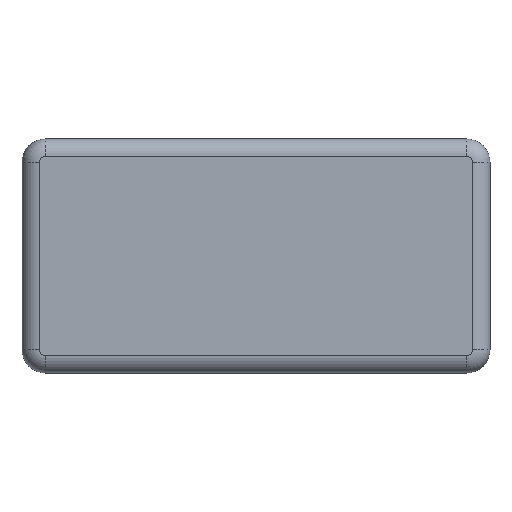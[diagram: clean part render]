
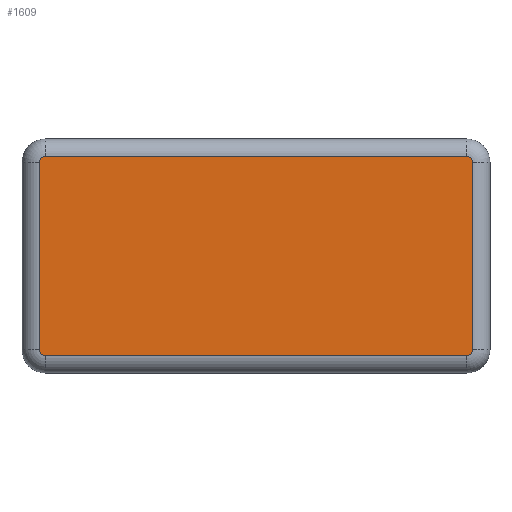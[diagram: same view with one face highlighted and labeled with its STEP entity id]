
A CAD part, top view. The second image highlights one B-rep face of the part: STEP entity #1609.
In plain terms, the highlighted planar face has unit normal (0, 0, 1).
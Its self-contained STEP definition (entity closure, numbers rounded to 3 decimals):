
#2 = AXIS2_PLACEMENT_3D ( 'NONE', #2420, #2458, #2979 ) ;
#3 = CARTESIAN_POINT ( 'NONE',  ( -36., -17., 0. ) ) ;
#105 = EDGE_CURVE ( 'NONE', #1988, #1653, #1261, .T. ) ;
#126 = ORIENTED_EDGE ( 'NONE', *, *, #447, .T. ) ;
#156 = LINE ( 'NONE', #1664, #188 ) ;
#188 = VECTOR ( 'NONE', #1948, 1000. ) ;
#208 = CARTESIAN_POINT ( 'NONE',  ( -36., -17., 0. ) ) ;
#331 = VERTEX_POINT ( 'NONE', #1069 ) ;
#358 = CARTESIAN_POINT ( 'NONE',  ( 36., -17., 0. ) ) ;
#397 = AXIS2_PLACEMENT_3D ( 'NONE', #2344, #3233, #2952 ) ;
#403 = EDGE_CURVE ( 'NONE', #1023, #1804, #2711, .T. ) ;
#428 = CARTESIAN_POINT ( 'NONE',  ( -36., 17., 0. ) ) ;
#446 = EDGE_CURVE ( 'NONE', #3109, #2827, #156, .T. ) ;
#447 = EDGE_CURVE ( 'NONE', #331, #1082, #2403, .T. ) ;
#694 = DIRECTION ( 'NONE',  ( 1., 0., 0. ) ) ;
#873 = VECTOR ( 'NONE', #694, 1000. ) ;
#888 = CARTESIAN_POINT ( 'NONE',  ( -37., 16., 0. ) ) ;
#934 = CARTESIAN_POINT ( 'NONE',  ( 37., -16., 0. ) ) ;
#975 = CIRCLE ( 'NONE', #1080, 1. ) ;
#981 = AXIS2_PLACEMENT_3D ( 'NONE', #2215, #3257, #2685 ) ;
#1023 = VERTEX_POINT ( 'NONE', #2583 ) ;
#1069 = CARTESIAN_POINT ( 'NONE',  ( 36., 17., 0. ) ) ;
#1080 = AXIS2_PLACEMENT_3D ( 'NONE', #1596, #2624, #1340 ) ;
#1082 = VERTEX_POINT ( 'NONE', #428 ) ;
#1114 = EDGE_CURVE ( 'NONE', #3109, #1653, #1730, .T. ) ;
#1145 = VECTOR ( 'NONE', #3191, 1000. ) ;
#1161 = DIRECTION ( 'NONE',  ( -1., 0., 0. ) ) ;
#1175 = CARTESIAN_POINT ( 'NONE',  ( -36., 17., 0. ) ) ;
#1261 = LINE ( 'NONE', #208, #873 ) ;
#1340 = DIRECTION ( 'NONE',  ( 0., -1., 0. ) ) ;
#1413 = AXIS2_PLACEMENT_3D ( 'NONE', #1829, #1581, #2875 ) ;
#1581 = DIRECTION ( 'NONE',  ( 0., 0., 1. ) ) ;
#1596 = CARTESIAN_POINT ( 'NONE',  ( -36., 16., 0. ) ) ;
#1609 = ADVANCED_FACE ( 'NONE', ( #3110 ), #2908, .T. ) ;
#1630 = EDGE_CURVE ( 'NONE', #1023, #1082, #975, .T. ) ;
#1653 = VERTEX_POINT ( 'NONE', #358 ) ;
#1664 = CARTESIAN_POINT ( 'NONE',  ( 37., 16., 0. ) ) ;
#1721 = ORIENTED_EDGE ( 'NONE', *, *, #105, .T. ) ;
#1730 = CIRCLE ( 'NONE', #2, 1. ) ;
#1804 = VERTEX_POINT ( 'NONE', #2489 ) ;
#1829 = CARTESIAN_POINT ( 'NONE',  ( -36., 16., 0. ) ) ;
#1948 = DIRECTION ( 'NONE',  ( 0., 1., 0. ) ) ;
#1988 = VERTEX_POINT ( 'NONE', #3 ) ;
#2215 = CARTESIAN_POINT ( 'NONE',  ( 36., 16., 0. ) ) ;
#2230 = ORIENTED_EDGE ( 'NONE', *, *, #3042, .F. ) ;
#2292 = CARTESIAN_POINT ( 'NONE',  ( 37., 16., 0. ) ) ;
#2344 = CARTESIAN_POINT ( 'NONE',  ( -36., -16., 0. ) ) ;
#2403 = LINE ( 'NONE', #1175, #2813 ) ;
#2420 = CARTESIAN_POINT ( 'NONE',  ( 36., -16., 0. ) ) ;
#2452 = ORIENTED_EDGE ( 'NONE', *, *, #1114, .F. ) ;
#2458 = DIRECTION ( 'NONE',  ( 0., 0., -1. ) ) ;
#2489 = CARTESIAN_POINT ( 'NONE',  ( -37., -16., 0. ) ) ;
#2583 = CARTESIAN_POINT ( 'NONE',  ( -37., 16., 0. ) ) ;
#2624 = DIRECTION ( 'NONE',  ( 0., 0., -1. ) ) ;
#2660 = EDGE_CURVE ( 'NONE', #331, #2827, #3290, .T. ) ;
#2685 = DIRECTION ( 'NONE',  ( 0., -1., 0. ) ) ;
#2711 = LINE ( 'NONE', #888, #1145 ) ;
#2715 = ORIENTED_EDGE ( 'NONE', *, *, #446, .T. ) ;
#2732 = ORIENTED_EDGE ( 'NONE', *, *, #2660, .F. ) ;
#2813 = VECTOR ( 'NONE', #1161, 1000. ) ;
#2827 = VERTEX_POINT ( 'NONE', #2292 ) ;
#2865 = ORIENTED_EDGE ( 'NONE', *, *, #1630, .F. ) ;
#2875 = DIRECTION ( 'NONE',  ( 0., -1., 0. ) ) ;
#2908 = PLANE ( 'NONE',  #1413 ) ;
#2910 = ORIENTED_EDGE ( 'NONE', *, *, #403, .T. ) ;
#2952 = DIRECTION ( 'NONE',  ( 0., -1., 0. ) ) ;
#2979 = DIRECTION ( 'NONE',  ( 0., -1., 0. ) ) ;
#3042 = EDGE_CURVE ( 'NONE', #1988, #1804, #3289, .T. ) ;
#3081 = EDGE_LOOP ( 'NONE', ( #2230, #1721, #2452, #2715, #2732, #126, #2865, #2910 ) ) ;
#3109 = VERTEX_POINT ( 'NONE', #934 ) ;
#3110 = FACE_OUTER_BOUND ( 'NONE', #3081, .T. ) ;
#3191 = DIRECTION ( 'NONE',  ( 0., -1., 0. ) ) ;
#3233 = DIRECTION ( 'NONE',  ( 0., 0., -1. ) ) ;
#3257 = DIRECTION ( 'NONE',  ( 0., 0., -1. ) ) ;
#3289 = CIRCLE ( 'NONE', #397, 1. ) ;
#3290 = CIRCLE ( 'NONE', #981, 1. ) ;
